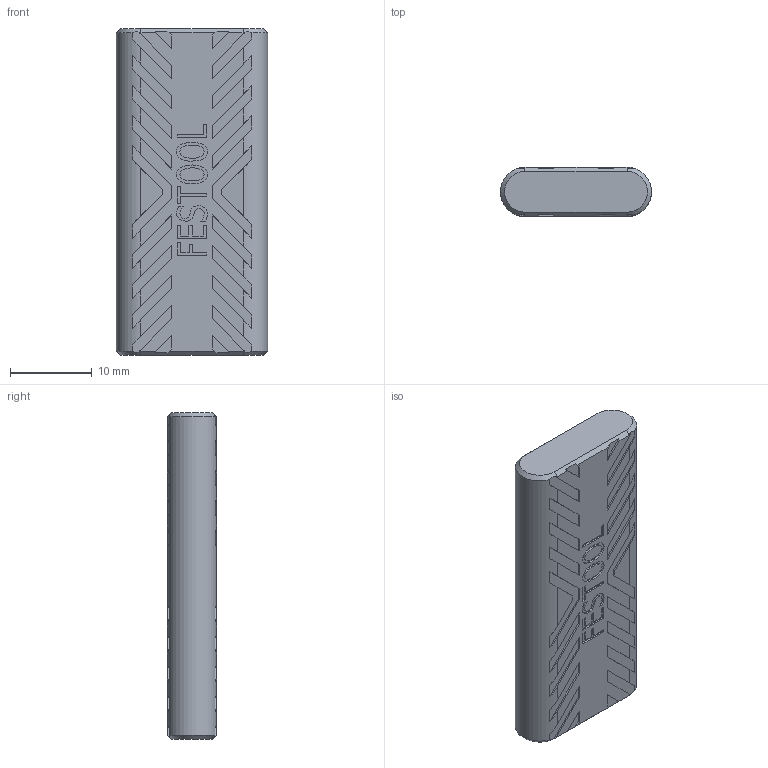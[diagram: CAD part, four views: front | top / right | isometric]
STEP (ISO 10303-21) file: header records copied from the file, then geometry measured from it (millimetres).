
FILE_DESCRIPTION(('Creo Elements/Direct Modeling STEP Export'),'2;1');
FILE_NAME('Domino_6x40.stp','2024-01-19T 8:05:02',(''),(''),'Creo Elements/Direct Modeling STEP processor for AP214 (Solid Model)','Creo Elements/Direct Modeling 20.5A 14-Oct-2022 (C) Parametric Technology GmbH','');
FILE_SCHEMA(('AUTOMOTIVE_DESIGN { 1 0 10303 214 1 1 1 1 }'));
Length unit declared in the file: millimetre
Products named in the file (2): 6x40_00464312
Assembly tree (1 placements, depth 2):
  6x40_00464312
    6x40_00464312
Bounding box: 18.5 x 6 x 40 mm (x, y, z)
Volume: 4047.1 mm3; surface area: 2104.2 mm2
Topology: 1 solids, 1 shells, 736 faces, 2119 edges, 1410 vertices
Faces by surface type: plane 722, cylinder 10, cone 4
Entity records: 23224 total; most frequent: CARTESIAN_POINT 4303, ORIENTED_EDGE 4238, DIRECTION 3451, EDGE_CURVE 2119, VECTOR 1919, LINE 1919, VERTEX_POINT 1410, AXIS2_PLACEMENT_3D 766
